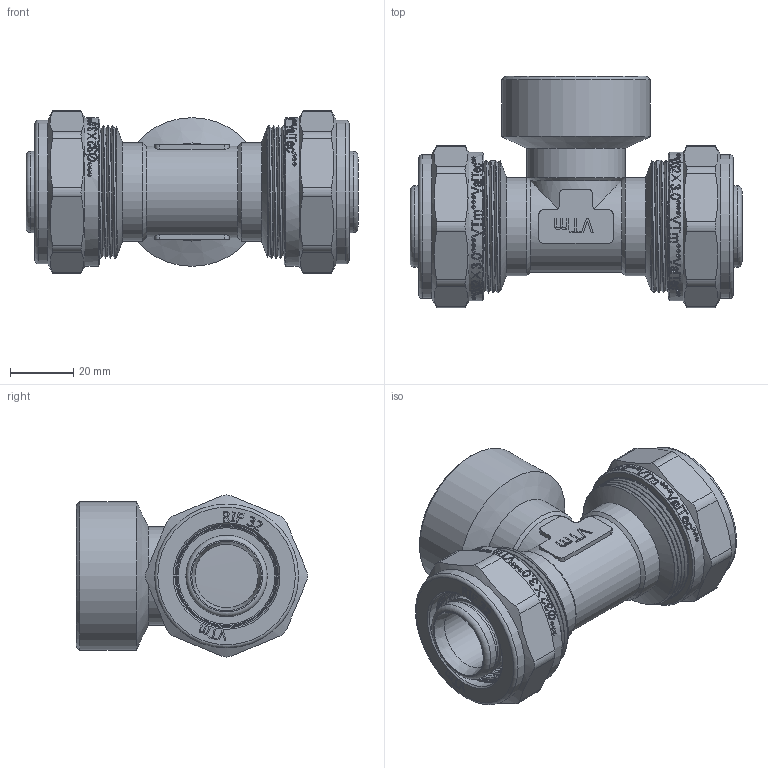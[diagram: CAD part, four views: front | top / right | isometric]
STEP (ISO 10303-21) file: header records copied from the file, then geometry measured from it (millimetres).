
FILE_DESCRIPTION(/* description */ (''),/* implementation_level */ '2;1');
FILE_NAME(/* name */ 'E:\Артём\00000\Работа удаленка\Обжимные фитинги\VTm.332.N.320732.stp',/* time_stamp */ '2020-07-08T14:02:34+03:00',/* author */ ('BeN_GaN'),/* organization */ (''),/* preprocessor_version */ 'ST-DEVELOPER v18',/* originating_system */ 'Autodesk Inventor 2020',/* authorisation */ '');
FILE_SCHEMA (('AUTOMOTIVE_DESIGN { 1 0 10303 214 3 1 1 }'));
Length unit declared in the file: millimetre
Products named in the file (1): VTm.332.N.320732
Bounding box: 105 x 73.15 x 51.3 mm (x, y, z)
Volume: 91881.9 mm3; surface area: 52364.6 mm2
Topology: 1 solids, 1 shells, 1458 faces, 4149 edges, 2795 vertices
Faces by surface type: bspline 764, plane 407, cylinder 205, torus 48, cone 34
Full cylindrical faces by diameter (mm): 20 x1, 23.4 x4, 24.5 x1, 25.75 x10, 29 x1, 30.538 x8, 31 x3, 31.683 x10, 32.2 x2, 32.7 x2, 35.5 x2, 38.515 x5, 40.38 x16, 40.5 x7, 42 x6, 43.115 x6, 45.5 x2, 47 x3
Entity records: 65854 total; most frequent: CARTESIAN_POINT 32929, ORIENTED_EDGE 8304, DIRECTION 4366, EDGE_CURVE 4152, VERTEX_POINT 2798, LINE 1786, VECTOR 1786, B_SPLINE_CURVE_WITH_KNOTS 1739
